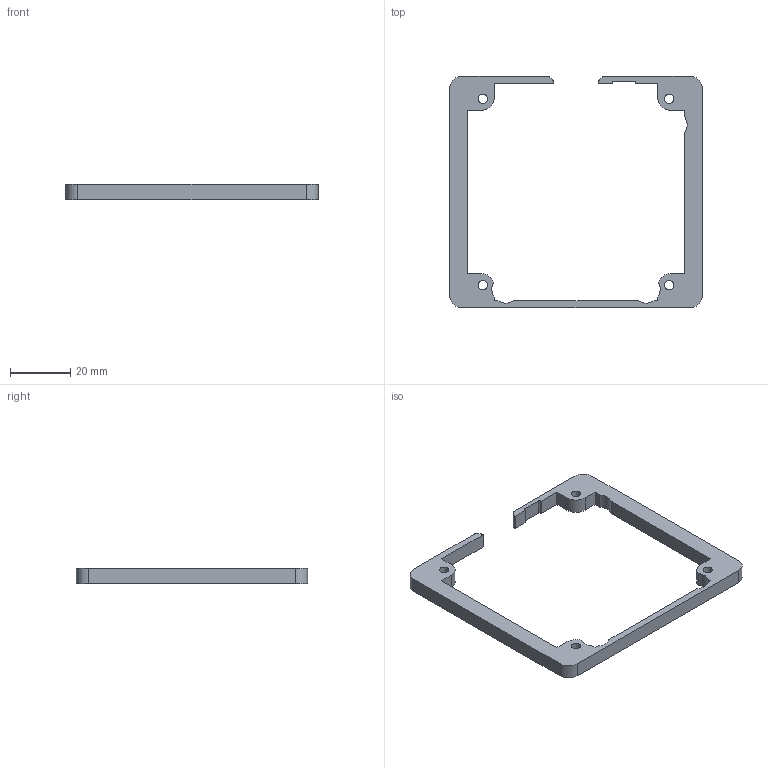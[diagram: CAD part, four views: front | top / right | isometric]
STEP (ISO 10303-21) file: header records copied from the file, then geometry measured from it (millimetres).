
FILE_DESCRIPTION(/* description */ ('Alibre Inc.'),/* implementation_level */ '2;1');
FILE_NAME(/* name */ 'export0',/* time_stamp */ '2018-10-16T15:26:45-07:00',/* author */ (''),/* organization */ (''),/* preprocessor_version */ 'ST-DEVELOPER v17',/* originating_system */ 'Alibre',/* authorisation */ '');
FILE_SCHEMA (('AUTOMOTIVE_DESIGN'));
Length unit declared in the file: millimetre
Bounding box: 84 x 77 x 5 mm (x, y, z)
Volume: 7200.8 mm3; surface area: 5937 mm2
Topology: 1 solids, 1 shells, 54 faces, 156 edges, 104 vertices
Faces by surface type: plane 31, cylinder 23
Full cylindrical faces by diameter (mm): 3.1 x4
Entity records: 1684 total; most frequent: ORIENTED_EDGE 304, CARTESIAN_POINT 290, DIRECTION 253, EDGE_CURVE 152, VERTEX_POINT 104, VECTOR 94, LINE 94, AXIS2_PLACEMENT_3D 92
